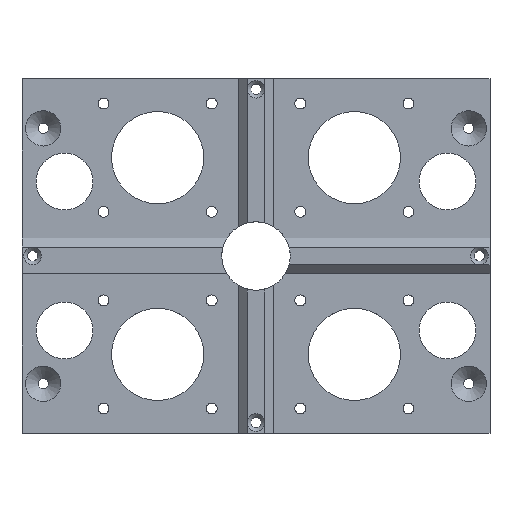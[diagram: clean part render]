
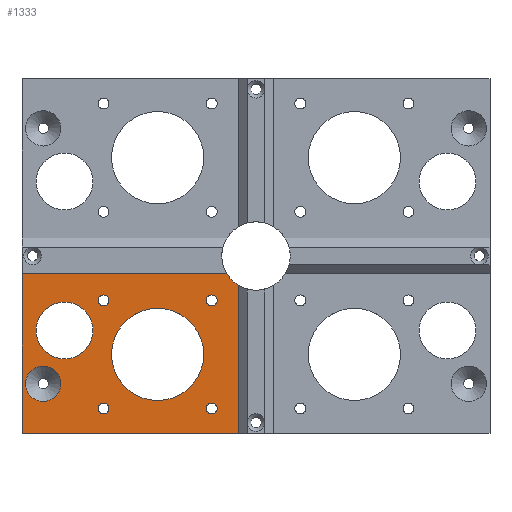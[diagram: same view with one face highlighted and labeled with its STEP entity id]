
A CAD part, top view. The second image highlights one B-rep face of the part: STEP entity #1333.
In plain terms, the highlighted planar face has unit normal (0, 0, 1).
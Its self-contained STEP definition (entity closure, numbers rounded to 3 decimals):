
#266 = VERTEX_POINT('',#267);
#267 = CARTESIAN_POINT('',(-5.,-8.254,12.5));
#273 = EDGE_CURVE('',#274,#266,#276,.T.);
#274 = VERTEX_POINT('',#275);
#275 = CARTESIAN_POINT('',(-8.254,-5.,12.5));
#276 = CIRCLE('',#277,9.65);
#277 = AXIS2_PLACEMENT_3D('',#278,#279,#280);
#278 = CARTESIAN_POINT('',(0.,0.,12.5));
#279 = DIRECTION('',(0.,0.,1.));
#280 = DIRECTION('',(1.,0.,0.));
#570 = VERTEX_POINT('',#571);
#571 = CARTESIAN_POINT('',(-66.,-5.,12.5));
#577 = EDGE_CURVE('',#578,#570,#580,.T.);
#578 = VERTEX_POINT('',#579);
#579 = CARTESIAN_POINT('',(-66.,-50.,12.5));
#580 = LINE('',#581,#582);
#581 = CARTESIAN_POINT('',(-66.,-50.,12.5));
#582 = VECTOR('',#583,1.);
#583 = DIRECTION('',(0.,1.,0.));
#1320 = EDGE_CURVE('',#570,#274,#1321,.T.);
#1321 = LINE('',#1322,#1323);
#1322 = CARTESIAN_POINT('',(-50.,-5.,12.5));
#1323 = VECTOR('',#1324,1.);
#1324 = DIRECTION('',(1.,0.,0.));
#1333 = ADVANCED_FACE('',(#1334,#1353,#1364,#1375,#1386,#1397,#1408,
    #1419),#1430,.T.);
#1334 = FACE_BOUND('',#1335,.T.);
#1335 = EDGE_LOOP('',(#1336,#1344,#1350,#1351,#1352));
#1336 = ORIENTED_EDGE('',*,*,#1337,.T.);
#1337 = EDGE_CURVE('',#578,#1338,#1340,.T.);
#1338 = VERTEX_POINT('',#1339);
#1339 = CARTESIAN_POINT('',(-5.,-50.,12.5));
#1340 = LINE('',#1341,#1342);
#1341 = CARTESIAN_POINT('',(-50.,-50.,12.5));
#1342 = VECTOR('',#1343,1.);
#1343 = DIRECTION('',(1.,0.,0.));
#1344 = ORIENTED_EDGE('',*,*,#1345,.T.);
#1345 = EDGE_CURVE('',#1338,#266,#1346,.T.);
#1346 = LINE('',#1347,#1348);
#1347 = CARTESIAN_POINT('',(-5.,-50.,12.5));
#1348 = VECTOR('',#1349,1.);
#1349 = DIRECTION('',(0.,1.,0.));
#1350 = ORIENTED_EDGE('',*,*,#273,.F.);
#1351 = ORIENTED_EDGE('',*,*,#1320,.F.);
#1352 = ORIENTED_EDGE('',*,*,#577,.F.);
#1353 = FACE_BOUND('',#1354,.T.);
#1354 = EDGE_LOOP('',(#1355));
#1355 = ORIENTED_EDGE('',*,*,#1356,.F.);
#1356 = EDGE_CURVE('',#1357,#1357,#1359,.T.);
#1357 = VERTEX_POINT('',#1358);
#1358 = CARTESIAN_POINT('',(-10.975,-43.,12.5));
#1359 = CIRCLE('',#1360,1.525);
#1360 = AXIS2_PLACEMENT_3D('',#1361,#1362,#1363);
#1361 = CARTESIAN_POINT('',(-12.5,-43.,12.5));
#1362 = DIRECTION('',(0.,0.,1.));
#1363 = DIRECTION('',(1.,0.,0.));
#1364 = FACE_BOUND('',#1365,.T.);
#1365 = EDGE_LOOP('',(#1366));
#1366 = ORIENTED_EDGE('',*,*,#1367,.F.);
#1367 = EDGE_CURVE('',#1368,#1368,#1370,.T.);
#1368 = VERTEX_POINT('',#1369);
#1369 = CARTESIAN_POINT('',(-10.975,-12.5,12.5));
#1370 = CIRCLE('',#1371,1.525);
#1371 = AXIS2_PLACEMENT_3D('',#1372,#1373,#1374);
#1372 = CARTESIAN_POINT('',(-12.5,-12.5,12.5));
#1373 = DIRECTION('',(0.,0.,1.));
#1374 = DIRECTION('',(1.,0.,0.));
#1375 = FACE_BOUND('',#1376,.T.);
#1376 = EDGE_LOOP('',(#1377));
#1377 = ORIENTED_EDGE('',*,*,#1378,.F.);
#1378 = EDGE_CURVE('',#1379,#1379,#1381,.T.);
#1379 = VERTEX_POINT('',#1380);
#1380 = CARTESIAN_POINT('',(-14.75,-27.745,12.5));
#1381 = CIRCLE('',#1382,13.);
#1382 = AXIS2_PLACEMENT_3D('',#1383,#1384,#1385);
#1383 = CARTESIAN_POINT('',(-27.75,-27.745,12.5));
#1384 = DIRECTION('',(0.,0.,1.));
#1385 = DIRECTION('',(1.,0.,0.));
#1386 = FACE_BOUND('',#1387,.T.);
#1387 = EDGE_LOOP('',(#1388));
#1388 = ORIENTED_EDGE('',*,*,#1389,.F.);
#1389 = EDGE_CURVE('',#1390,#1390,#1392,.T.);
#1390 = VERTEX_POINT('',#1391);
#1391 = CARTESIAN_POINT('',(-41.475,-43.,12.5));
#1392 = CIRCLE('',#1393,1.525);
#1393 = AXIS2_PLACEMENT_3D('',#1394,#1395,#1396);
#1394 = CARTESIAN_POINT('',(-43.,-43.,12.5));
#1395 = DIRECTION('',(0.,0.,1.));
#1396 = DIRECTION('',(1.,0.,0.));
#1397 = FACE_BOUND('',#1398,.T.);
#1398 = EDGE_LOOP('',(#1399));
#1399 = ORIENTED_EDGE('',*,*,#1400,.T.);
#1400 = EDGE_CURVE('',#1401,#1401,#1403,.T.);
#1401 = VERTEX_POINT('',#1402);
#1402 = CARTESIAN_POINT('',(-55.025,-36.,12.5));
#1403 = CIRCLE('',#1404,4.975);
#1404 = AXIS2_PLACEMENT_3D('',#1405,#1406,#1407);
#1405 = CARTESIAN_POINT('',(-60.,-36.,12.5));
#1406 = DIRECTION('',(0.,0.,-1.));
#1407 = DIRECTION('',(1.,0.,0.));
#1408 = FACE_BOUND('',#1409,.T.);
#1409 = EDGE_LOOP('',(#1410));
#1410 = ORIENTED_EDGE('',*,*,#1411,.F.);
#1411 = EDGE_CURVE('',#1412,#1412,#1414,.T.);
#1412 = VERTEX_POINT('',#1413);
#1413 = CARTESIAN_POINT('',(-41.475,-12.5,12.5));
#1414 = CIRCLE('',#1415,1.525);
#1415 = AXIS2_PLACEMENT_3D('',#1416,#1417,#1418);
#1416 = CARTESIAN_POINT('',(-43.,-12.5,12.5));
#1417 = DIRECTION('',(0.,0.,1.));
#1418 = DIRECTION('',(1.,0.,0.));
#1419 = FACE_BOUND('',#1420,.T.);
#1420 = EDGE_LOOP('',(#1421));
#1421 = ORIENTED_EDGE('',*,*,#1422,.F.);
#1422 = EDGE_CURVE('',#1423,#1423,#1425,.T.);
#1423 = VERTEX_POINT('',#1424);
#1424 = CARTESIAN_POINT('',(-46.,-21.,12.5));
#1425 = CIRCLE('',#1426,8.);
#1426 = AXIS2_PLACEMENT_3D('',#1427,#1428,#1429);
#1427 = CARTESIAN_POINT('',(-54.,-21.,12.5));
#1428 = DIRECTION('',(0.,0.,1.));
#1429 = DIRECTION('',(1.,0.,0.));
#1430 = PLANE('',#1431);
#1431 = AXIS2_PLACEMENT_3D('',#1432,#1433,#1434);
#1432 = CARTESIAN_POINT('',(-35.784,-27.713,12.5));
#1433 = DIRECTION('',(0.,0.,1.));
#1434 = DIRECTION('',(0.,1.,0.));
